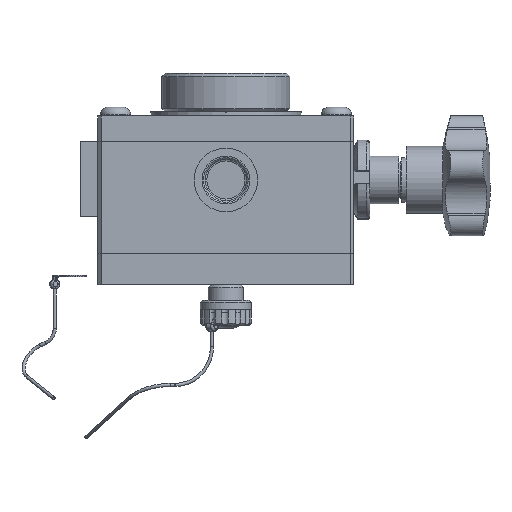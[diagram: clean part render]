
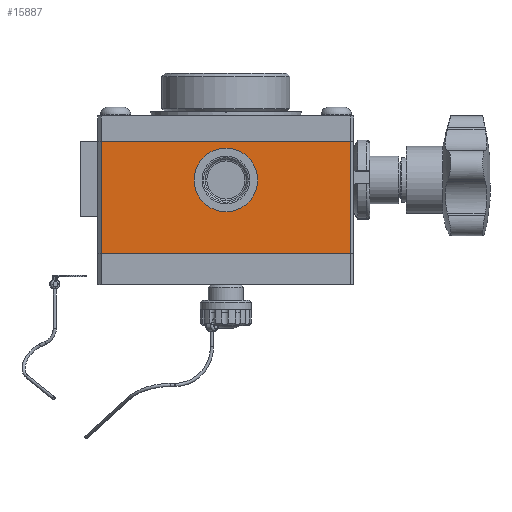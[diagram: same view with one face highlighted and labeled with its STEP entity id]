
A CAD part, left-side view. The second image highlights one B-rep face of the part: STEP entity #15887.
In plain terms, the highlighted planar face has unit normal (-1, 0, 0) as drawn and (0, 0, 1) by its records, which use the part's own axes.
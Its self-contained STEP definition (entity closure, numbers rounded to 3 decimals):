
#1050=FACE_BOUND('',#2770,.T.);
#1234=PLANE('',#17515);
#1838=FACE_OUTER_BOUND('',#2769,.T.);
#2769=EDGE_LOOP('',(#11401,#11402,#11403,#11404));
#2770=EDGE_LOOP('',(#11405));
#3849=LINE('',#23715,#5270);
#3862=LINE('',#23745,#5283);
#3863=LINE('',#23748,#5284);
#3864=LINE('',#23749,#5285);
#5270=VECTOR('',#19252,10.);
#5283=VECTOR('',#19279,10.);
#5284=VECTOR('',#19282,10.);
#5285=VECTOR('',#19283,10.);
#6701=CIRCLE('',#17516,6.959);
#7341=VERTEX_POINT('',#23712);
#7342=VERTEX_POINT('',#23714);
#7352=VERTEX_POINT('',#23743);
#7353=VERTEX_POINT('',#23747);
#7354=VERTEX_POINT('',#23750);
#8951=EDGE_CURVE('',#7342,#7341,#3849,.T.);
#8969=EDGE_CURVE('',#7352,#7341,#3862,.T.);
#8970=EDGE_CURVE('',#7352,#7353,#3863,.T.);
#8971=EDGE_CURVE('',#7342,#7353,#3864,.T.);
#8972=EDGE_CURVE('',#7354,#7354,#6701,.T.);
#11401=ORIENTED_EDGE('',*,*,#8969,.F.);
#11402=ORIENTED_EDGE('',*,*,#8970,.T.);
#11403=ORIENTED_EDGE('',*,*,#8971,.F.);
#11404=ORIENTED_EDGE('',*,*,#8951,.T.);
#11405=ORIENTED_EDGE('',*,*,#8972,.T.);
#15887=ADVANCED_FACE('',(#1838,#1050),#1234,.T.);
#17515=AXIS2_PLACEMENT_3D('',#23746,#19280,#19281);
#17516=AXIS2_PLACEMENT_3D('',#23751,#19284,#19285);
#19252=DIRECTION('',(-1.,0.,0.));
#19279=DIRECTION('',(0.,1.,0.));
#19280=DIRECTION('center_axis',(0.,0.,
1.));
#19281=DIRECTION('ref_axis',(1.,0.,0.));
#19282=DIRECTION('',(1.,0.,0.));
#19283=DIRECTION('',(0.,-1.,0.));
#19284=DIRECTION('center_axis',(0.,0.,
-1.));
#19285=DIRECTION('ref_axis',(-1.,0.,0.));
#23712=CARTESIAN_POINT('',(-39.,17.5,90.));
#23714=CARTESIAN_POINT('',(39.,17.5,90.));
#23715=CARTESIAN_POINT('',(-40.,17.5,90.));
#23743=CARTESIAN_POINT('',(-39.,-17.5,90.));
#23745=CARTESIAN_POINT('',(-39.,8.75,90.));
#23746=CARTESIAN_POINT('Origin',(0.,0.,
90.));
#23747=CARTESIAN_POINT('',(39.,-17.5,90.));
#23748=CARTESIAN_POINT('',(40.,-17.5,90.));
#23749=CARTESIAN_POINT('',(39.,-8.75,90.));
#23750=CARTESIAN_POINT('',(6.959,5.5,90.));
#23751=CARTESIAN_POINT('Origin',(0.,5.5,
90.));
